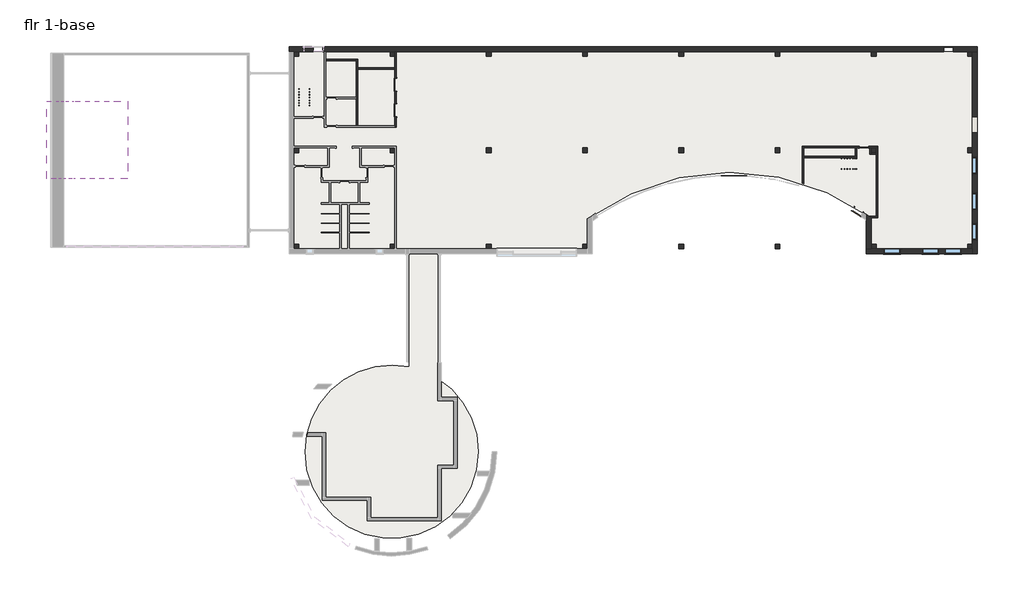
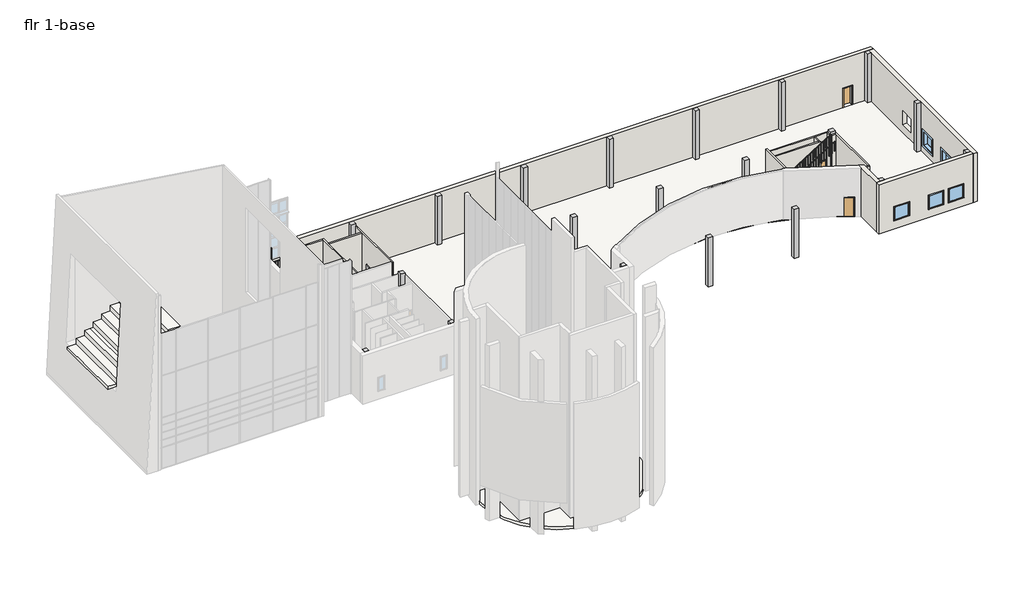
# One storey, part 5 of 5: 24 columns, 16 walls, 6 windows, 4 railings, 3 doors, 3 slabs, 2 proxies, 1 plate.
"""IFC4 building model written with IfcOpenShell, lengths in millimetres."""

from ifc_helpers import new_model, si_unit, point, frame, frame_2d, origin, origin_with_axes, place, context, project, spatial, polyline, circle_curve, trimmed, segment, composite_curve, outline, extrude, faceted_brep, transform, mapped, element, save
from ifc_brep_helpers import plane_surface, cylinder_surface, revolved_surface, advanced_brep
from components import proxy_ae548678, column_b6e10527, door_506e7aec, door_9814c99b, door_c8b20f4e, glazed_panel_glazed_panel_a34ef34b, stair_railing_1_6e4a725b, stair_railing_1_c91c3353, stair_railing_1_933ab80a, stair_railing_1_a5e15ff2, floors_1_floors_1_983044af, fixed_5_x5_e2f24dca

model = new_model("IFC4")

# Units and contexts
model_context = context("Model", 3, world=origin())
ifc_project = project(units=[si_unit("LENGTHUNIT", "METRE", prefix="MILLI")], contexts=[model_context])

# Site, building, storey
site = spatial("IfcSite", under=ifc_project)
building = spatial("IfcBuilding", under=site)
storey = spatial("IfcBuildingStorey", under=building, Name="flr 1-base", Elevation=0.0)

# Proxies
placement = place(None, origin())
proxy_shape = proxy_ae548678(model_context)
element("IfcBuildingElementProxy", 1, Name="Elevator-Center : 72\" x 114\" Hospital min.", ObjectType="Elevator-Center : 72\" x 114\" Hospital min.", at=placement, inside=storey, context=model_context, shape_type="MappedRepresentation", body=[
    mapped(proxy_shape, transform((-105880.840902, 38348.4927472, 0.0), x_axis=(0.0, 1.0, 0.0), y_axis=(-1.0, 0.0, 0.0), z_axis=(0.0, 0.0, 1.0))),
])
element("IfcBuildingElementProxy", 2, Name="Elevator-Center : 72\" x 114\" Hospital min.", ObjectType="Elevator-Center : 72\" x 114\" Hospital min.", at=placement, inside=storey, context=model_context, shape_type="MappedRepresentation", body=[
    mapped(proxy_shape, transform((-105880.840902, 40786.8927472, 0.0), x_axis=(0.0, 1.0, 0.0), y_axis=(-1.0, 0.0, 0.0), z_axis=(0.0, 0.0, 1.0))),
])

# Columns
element("IfcColumn", 3, ObjectType="Rectangular Column : 18\" x 18\"", at=placement, inside=storey, context=model_context, shape_type="SweptSolid", body=[
    extrude(outline(polyline([(-105950.690902, 25543.0071029), (-105950.690902, 25085.8071029), (-106407.890902, 25085.8071029), (-106407.890902, 25543.0071029), (-105950.690902, 25543.0071029)])), origin_with_axes(), (0.0, 0.0, 1.0), 5486.4),
])
element("IfcColumn", 4, ObjectType="Rectangular Column : 18\" x 18\"", at=placement, inside=storey, context=model_context, shape_type="SweptSolid", body=[
    extrude(outline(polyline([(-115094.690902, 34687.0071029), (-115094.690902, 34229.8071029), (-115551.890902, 34229.8071029), (-115551.890902, 34687.0071029), (-115094.690902, 34687.0071029)])), origin_with_axes(), (0.0, 0.0, 1.0), 5486.4),
])
element("IfcColumn", 5, ObjectType="Rectangular Column : 18\" x 18\"", at=placement, inside=storey, context=model_context, shape_type="SweptSolid", body=[
    extrude(outline(polyline([(-105950.690902, 34687.0071029), (-105950.690902, 34229.8071029), (-106407.890902, 34229.8071029), (-106407.890902, 34687.0071029), (-105950.690902, 34687.0071029)])), origin_with_axes(), (0.0, 0.0, 1.0), 5486.4),
])
element("IfcColumn", 6, ObjectType="Rectangular Column : 18\" x 18\"", at=placement, inside=storey, context=model_context, shape_type="SweptSolid", body=[
    extrude(outline(polyline([(-60230.690902, 34687.0071029), (-60230.690902, 34229.8071029), (-60687.890902, 34229.8071029), (-60687.890902, 34687.0071029), (-60230.690902, 34687.0071029)])), origin_with_axes(), (0.0, 0.0, 1.0), 5486.4),
])
element("IfcColumn", 7, ObjectType="Rectangular Column : 18\" x 18\"", at=placement, inside=storey, context=model_context, shape_type="SweptSolid", body=[
    extrude(outline(polyline([(-105950.690902, 43831.0071029), (-105950.690902, 43373.8071029), (-106407.890902, 43373.8071029), (-106407.890902, 43831.0071029), (-105950.690902, 43831.0071029)])), origin_with_axes(), (0.0, 0.0, 1.0), 5486.4),
])
column_shape = column_b6e10527(model_context)
element("IfcColumn", 8, ObjectType="Rectangular Column : 18\" x 18\"", at=placement, inside=storey, context=model_context, shape_type="MappedRepresentation", body=[
    mapped(column_shape, transform((-115323.290902, 25314.4071029, 0.0), x_axis=(1.0, 0.0, 0.0), y_axis=(0.0, 1.0, 0.0), z_axis=(0.0, 0.0, 1.0))),
])
element("IfcColumn", 9, ObjectType="Rectangular Column : 18\" x 18\"", at=placement, inside=storey, context=model_context, shape_type="MappedRepresentation", body=[
    mapped(column_shape, transform((-97035.290902, 25314.4071029, 0.0), x_axis=(1.0, 0.0, 0.0), y_axis=(0.0, 1.0, 0.0), z_axis=(0.0, 0.0, 1.0))),
])
element("IfcColumn", 10, ObjectType="Rectangular Column : 18\" x 18\"", at=placement, inside=storey, context=model_context, shape_type="MappedRepresentation", body=[
    mapped(column_shape, transform((-87891.290902, 25314.4071029, 0.0), x_axis=(1.0, 0.0, 0.0), y_axis=(0.0, 1.0, 0.0), z_axis=(0.0, 0.0, 1.0))),
])
element("IfcColumn", 11, ObjectType="Rectangular Column : 18\" x 18\"", at=placement, inside=storey, context=model_context, shape_type="MappedRepresentation", body=[
    mapped(column_shape, transform((-78747.290902, 25314.4071029, 0.0), x_axis=(1.0, 0.0, 0.0), y_axis=(0.0, 1.0, 0.0), z_axis=(0.0, 0.0, 1.0))),
])
element("IfcColumn", 12, ObjectType="Rectangular Column : 18\" x 18\"", at=placement, inside=storey, context=model_context, shape_type="MappedRepresentation", body=[
    mapped(column_shape, transform((-69603.290902, 25314.4071029, 0.0), x_axis=(1.0, 0.0, 0.0), y_axis=(0.0, 1.0, 0.0), z_axis=(0.0, 0.0, 1.0))),
])
element("IfcColumn", 13, ObjectType="Rectangular Column : 18\" x 18\"", at=placement, inside=storey, context=model_context, shape_type="MappedRepresentation", body=[
    mapped(column_shape, transform((-60459.290902, 25314.4071029, 0.0), x_axis=(1.0, 0.0, 0.0), y_axis=(0.0, 1.0, 0.0), z_axis=(0.0, 0.0, 1.0))),
])
element("IfcColumn", 14, ObjectType="Rectangular Column : 18\" x 18\"", at=placement, inside=storey, context=model_context, shape_type="MappedRepresentation", body=[
    mapped(column_shape, transform((-51315.290902, 25314.4071029, 0.0), x_axis=(1.0, 0.0, 0.0), y_axis=(0.0, 1.0, 0.0), z_axis=(0.0, 0.0, 1.0))),
])
element("IfcColumn", 15, ObjectType="Rectangular Column : 18\" x 18\"", at=placement, inside=storey, context=model_context, shape_type="MappedRepresentation", body=[
    mapped(column_shape, transform((-97035.290902, 34458.4071029, 0.0), x_axis=(1.0, 0.0, 0.0), y_axis=(0.0, 1.0, 0.0), z_axis=(0.0, 0.0, 1.0))),
])
element("IfcColumn", 16, ObjectType="Rectangular Column : 18\" x 18\"", at=placement, inside=storey, context=model_context, shape_type="MappedRepresentation", body=[
    mapped(column_shape, transform((-87891.290902, 34458.4071029, 0.0), x_axis=(1.0, 0.0, 0.0), y_axis=(0.0, 1.0, 0.0), z_axis=(0.0, 0.0, 1.0))),
])
element("IfcColumn", 17, ObjectType="Rectangular Column : 18\" x 18\"", at=placement, inside=storey, context=model_context, shape_type="MappedRepresentation", body=[
    mapped(column_shape, transform((-78747.290902, 34458.4071029, 0.0), x_axis=(1.0, 0.0, 0.0), y_axis=(0.0, 1.0, 0.0), z_axis=(0.0, 0.0, 1.0))),
])
element("IfcColumn", 18, ObjectType="Rectangular Column : 18\" x 18\"", at=placement, inside=storey, context=model_context, shape_type="MappedRepresentation", body=[
    mapped(column_shape, transform((-69603.290902, 34458.4071029, 0.0), x_axis=(1.0, 0.0, 0.0), y_axis=(0.0, 1.0, 0.0), z_axis=(0.0, 0.0, 1.0))),
])
element("IfcColumn", 19, ObjectType="Rectangular Column : 18\" x 18\"", at=placement, inside=storey, context=model_context, shape_type="MappedRepresentation", body=[
    mapped(column_shape, transform((-51315.290902, 34458.4071029, 0.0), x_axis=(1.0, 0.0, 0.0), y_axis=(0.0, 1.0, 0.0), z_axis=(0.0, 0.0, 1.0))),
])
element("IfcColumn", 20, ObjectType="Rectangular Column : 18\" x 18\"", at=placement, inside=storey, context=model_context, shape_type="MappedRepresentation", body=[
    mapped(column_shape, transform((-115323.290902, 43602.4071029, 0.0), x_axis=(1.0, 0.0, 0.0), y_axis=(0.0, 1.0, 0.0), z_axis=(0.0, 0.0, 1.0))),
])
element("IfcColumn", 21, ObjectType="Rectangular Column : 18\" x 18\"", at=placement, inside=storey, context=model_context, shape_type="MappedRepresentation", body=[
    mapped(column_shape, transform((-97035.290902, 43602.4071029, 0.0), x_axis=(1.0, 0.0, 0.0), y_axis=(0.0, 1.0, 0.0), z_axis=(0.0, 0.0, 1.0))),
])
element("IfcColumn", 22, ObjectType="Rectangular Column : 18\" x 18\"", at=placement, inside=storey, context=model_context, shape_type="MappedRepresentation", body=[
    mapped(column_shape, transform((-87891.290902, 43602.4071029, 0.0), x_axis=(1.0, 0.0, 0.0), y_axis=(0.0, 1.0, 0.0), z_axis=(0.0, 0.0, 1.0))),
])
element("IfcColumn", 23, ObjectType="Rectangular Column : 18\" x 18\"", at=placement, inside=storey, context=model_context, shape_type="MappedRepresentation", body=[
    mapped(column_shape, transform((-78747.290902, 43602.4071029, 0.0), x_axis=(1.0, 0.0, 0.0), y_axis=(0.0, 1.0, 0.0), z_axis=(0.0, 0.0, 1.0))),
])
element("IfcColumn", 24, ObjectType="Rectangular Column : 18\" x 18\"", at=placement, inside=storey, context=model_context, shape_type="MappedRepresentation", body=[
    mapped(column_shape, transform((-69603.290902, 43602.4071029, 0.0), x_axis=(1.0, 0.0, 0.0), y_axis=(0.0, 1.0, 0.0), z_axis=(0.0, 0.0, 1.0))),
])
element("IfcColumn", 25, ObjectType="Rectangular Column : 18\" x 18\"", at=placement, inside=storey, context=model_context, shape_type="MappedRepresentation", body=[
    mapped(column_shape, transform((-60459.290902, 43602.4071029, 0.0), x_axis=(1.0, 0.0, 0.0), y_axis=(0.0, 1.0, 0.0), z_axis=(0.0, 0.0, 1.0))),
])
element("IfcColumn", 26, ObjectType="Rectangular Column : 18\" x 18\"", at=placement, inside=storey, context=model_context, shape_type="MappedRepresentation", body=[
    mapped(column_shape, transform((-51315.290902, 43602.4071029, 0.0), x_axis=(1.0, 0.0, 0.0), y_axis=(0.0, 1.0, 0.0), z_axis=(0.0, 0.0, 1.0))),
])

# Doors
door_shape = door_506e7aec(model_context)
element("IfcDoor", 27, ObjectType="Sgl Flush : 36\" x 84\"", at=placement, inside=storey, context=model_context, shape_type="MappedRepresentation", body=[
    mapped(door_shape, transform((-53347.290902, 44059.6071029, 0.0), x_axis=(1.0, 0.0, 0.0), y_axis=(0.0, 1.0, 0.0), z_axis=(0.0, 0.0, 1.0))),
])
door_2_shape = door_9814c99b(model_context)
element("IfcDoor", 28, ObjectType="Sgl Flush : 36\" x 84\"", at=placement, inside=storey, context=model_context, shape_type="MappedRepresentation", body=[
    mapped(door_2_shape, transform((-61392.740902, 34756.8571029, 0.0), x_axis=(1.0, 0.0, 0.0), y_axis=(0.0, 1.0, 0.0), z_axis=(0.0, 0.0, 1.0))),
])
door_3_shape = door_c8b20f4e(model_context)
element("IfcDoor", 29, ObjectType="Sgl Flush : 36\" x 84\"", at=placement, inside=storey, context=model_context, shape_type="MappedRepresentation", body=[
    mapped(door_3_shape, transform((-61984.3822713, 28630.0444779, 0.0), x_axis=(0.8466581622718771, -0.5321371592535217, 0.0), y_axis=(0.5321371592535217, 0.8466581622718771, 0.0), z_axis=(0.0, 0.0, 1.0))),
])

# Plate
glazed_panel_glazed_panel_shape = glazed_panel_glazed_panel_a34ef34b(model_context)
element("IfcPlate", 30, ObjectType="Glazed Panel : Glazed Panel", at=placement, inside=storey, context=model_context, shape_type="MappedRepresentation", body=[
    mapped(glazed_panel_glazed_panel_shape, transform((-73741.8913195, 32089.0416678, 0.0), x_axis=(-0.9998746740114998, 0.015831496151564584, 0.0), y_axis=(-0.015831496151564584, -0.9998746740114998, 0.0), z_axis=(0.0, 0.0, 1.0))),
])

# Railings
stair_railing_1_shape = stair_railing_1_6e4a725b(model_context)
element("IfcRailing", 31, ObjectType="Stair Railing 1", at=placement, inside=storey, context=model_context, shape_type="MappedRepresentation", body=[
    mapped(stair_railing_1_shape, transform((0.0, 0.0, 0.0), x_axis=(1.0, 0.0, 0.0), y_axis=(0.0, 1.0, 0.0), z_axis=(0.0, 0.0, 1.0))),
])
stair_railing_1_2_shape = stair_railing_1_c91c3353(model_context)
element("IfcRailing", 32, ObjectType="Stair Railing 1", at=placement, inside=storey, context=model_context, shape_type="MappedRepresentation", body=[
    mapped(stair_railing_1_2_shape, transform((0.0, 0.0, 0.0), x_axis=(1.0, 0.0, 0.0), y_axis=(0.0, 1.0, 0.0), z_axis=(0.0, 0.0, 1.0))),
])
stair_railing_1_3_shape = stair_railing_1_933ab80a(model_context)
element("IfcRailing", 33, ObjectType="Stair Railing 1", at=placement, inside=storey, context=model_context, shape_type="MappedRepresentation", body=[
    mapped(stair_railing_1_3_shape, transform((0.0, 0.0, 0.0), x_axis=(1.0, 0.0, 0.0), y_axis=(0.0, 1.0, 0.0), z_axis=(0.0, 0.0, 1.0))),
])
stair_railing_1_4_shape = stair_railing_1_a5e15ff2(model_context)
element("IfcRailing", 34, ObjectType="Stair Railing 1", at=placement, inside=storey, context=model_context, shape_type="MappedRepresentation", body=[
    mapped(stair_railing_1_4_shape, transform((0.0, 0.0, 0.0), x_axis=(1.0, 0.0, 0.0), y_axis=(0.0, 1.0, 0.0), z_axis=(0.0, 0.0, 1.0))),
])

# Slabs
floors_1_floors_1_shape = floors_1_floors_1_983044af(model_context)
element("IfcSlab", 35, ObjectType="Floors 1 : Floors 1", at=placement, inside=storey, context=model_context, shape_type="MappedRepresentation", body=[
    mapped(floors_1_floors_1_shape, transform((0.0, 0.0, 0.0), x_axis=(1.0, 0.0, 0.0), y_axis=(0.0, 1.0, 0.0), z_axis=(0.0, 0.0, 1.0))),
])
element("IfcSlab", 36, ObjectType="Generic - 12\"", at=placement, inside=storey, context=model_context, shape_type="SweptSolid", body=[
    extrude(outline(composite_curve([segment(trimmed(circle_curve(frame_2d((-106255.490902, 5807.2071029)), 8229.6), [point((-101864.8074925, 12767.6823279))], [point((-98025.890902, 5807.2071029))], False, "CARTESIAN"), True, "CONTINUOUS"), segment(trimmed(circle_curve(frame_2d((-106255.490902, 5807.2071029)), 8229.6), [point((-98025.890902, 5807.2071029))], [point((-114485.090902, 5807.2071029))], False, "CARTESIAN"), True, "CONTINUOUS"), segment(trimmed(circle_curve(frame_2d((-106255.490902, 5807.2071029)), 8229.6), [point((-114485.090902, 5807.2071029))], [point((-104601.6574925, 13868.9160541))], False, "CARTESIAN"), True, "CONTINUOUS"), segment(polyline([(-104601.6574925, 13868.9160541), (-104601.6574925, 24630.1946029), (-101864.8074925, 24630.1946029), (-101864.8074925, 12767.6823279)]), True, "CONTINUOUS")], self_intersect=False)), frame((0.0, 0.0, -304.8), z_axis=(0.0, 0.0, 1.0), x_axis=(1.0, 0.0, 0.0)), (0.0, 0.0, 1.0), 304.8),
])
element("IfcSlab", 37, ObjectType="Generic - 12\"", at=placement, inside=storey, context=model_context, shape_type="SweptSolid", body=[
    extrude(outline(composite_curve([segment(polyline([(-115553.8578209, 43832.5946029), (-51085.103402, 43832.5946029), (-51085.103402, 25084.2196029), (-60689.478402, 25084.2196029), (-60689.478402, 28038.6155885)]), True, "CONTINUOUS"), segment(trimmed(circle_curve(frame_2d((-74101.9231483, 9350.4006647)), 23003.1095965), [point((-60689.478402, 28038.6155885))], [point((-87661.103402, 27932.4264412))], True, "CARTESIAN"), True, "CONTINUOUS"), segment(polyline([(-87661.103402, 27932.4264412), (-87661.103402, 25084.2196029), (-115553.8578209, 25084.2196029), (-115553.8578209, 43832.5946029)]), True, "CONTINUOUS")], self_intersect=False)), frame((0.0, 0.0, -304.8), z_axis=(0.0, 0.0, 1.0), x_axis=(1.0, 0.0, 0.0)), (0.0, 0.0, 1.0), 304.8),
])

# Walls
element("IfcWall", 38, ObjectType="Interior - 5 1/2\" Partition (1-hr)", at=placement, inside=storey, context=model_context, shape_type="Brep", body=[
    faceted_brep([(-105950.690902, 40071.8071029, 2159.0), (-105950.690902, 40071.8071029, 0.0), (-105950.690902, 38865.3071029, 0.0), (-105950.690902, 38865.3071029, 2159.0), (-105950.690902, 37633.4071029, 2159.0), (-105950.690902, 37633.4071029, 0.0), (-105950.690902, 36795.2071029, 0.0), (-105950.690902, 36655.5071029, 0.0), (-105950.690902, 36655.5071029, 5181.6), (-105950.690902, 36795.2071029, 5181.6), (-105950.690902, 42141.9071029, 5181.6), (-105950.690902, 42281.6071029, 5181.6), (-105950.690902, 43832.5946029, 5181.6), (-105950.690902, 43832.5946029, 0.0), (-105950.690902, 42281.6071029, 0.0), (-105950.690902, 42141.9071029, 0.0), (-105950.690902, 41303.7071029, 0.0), (-105950.690902, 41303.7071029, 2159.0), (-105810.990902, 38865.3071029, 0.0), (-105810.990902, 40071.8071029, 0.0), (-105810.990902, 40071.8071029, 2159.0), (-105810.990902, 41303.7071029, 2159.0), (-105810.990902, 41303.7071029, 0.0), (-105810.990902, 43832.5946029, 0.0), (-105810.990902, 43832.5946029, 5181.6), (-105810.990902, 36655.5071029, 5181.6), (-105810.990902, 36655.5071029, 0.0), (-105810.990902, 37633.4071029, 0.0), (-105810.990902, 37633.4071029, 2159.0), (-105810.990902, 38865.3071029, 2159.0)], [[[0, 1, 2, 3, 4, 5, 6, 7, 8, 9, 10, 11, 12, 13, 14, 15, 16, 17]], [[18, 19, 20, 21, 22, 23, 24, 25, 26, 27, 28, 29]], [[7, 6, 5, 27, 26]], [[2, 1, 19, 18]], [[16, 15, 14, 13, 23, 22]], [[8, 7, 26, 25]], [[13, 12, 24, 23]], [[12, 11, 10, 9, 8, 25, 24]], [[28, 27, 5, 4]], [[29, 28, 4, 3]], [[18, 29, 3, 2]], [[20, 19, 1, 0]], [[21, 20, 0, 17]], [[22, 21, 17, 16]]]),
])
element("IfcWall", 39, ObjectType="Interior - 5 1/2\" Partition (1-hr)", at=placement, inside=storey, context=model_context, shape_type="Brep", body=[
    faceted_brep([(-109493.990902, 36795.2071029, 0.0), (-109493.990902, 42141.9071029, 0.0), (-109493.990902, 42281.6071029, 0.0), (-109493.990902, 43119.8071029, 0.0), (-109493.990902, 43119.8071029, 5181.6), (-109493.990902, 42281.6071029, 5181.6), (-109493.990902, 42141.9071029, 5181.6), (-109493.990902, 36795.2071029, 5181.6), (-109633.690902, 36795.2071029, 0.0), (-109633.690902, 36795.2071029, 5181.6), (-109633.690902, 39347.9071029, 5181.6), (-109633.690902, 39487.6071029, 5181.6), (-109633.690902, 42980.1071029, 5181.6), (-109633.690902, 43119.8071029, 5181.6), (-109633.690902, 43119.8071029, 0.0), (-109633.690902, 42980.1071029, 0.0), (-109633.690902, 39487.6071029, 0.0), (-109633.690902, 39347.9071029, 0.0)], [[[0, 1, 2, 3, 4, 5, 6, 7]], [[8, 9, 10, 11, 12, 13, 14, 15, 16, 17]], [[3, 2, 1, 0, 8, 17, 16, 15, 14]], [[4, 3, 14, 13]], [[0, 7, 9, 8]], [[7, 6, 5, 4, 13, 12, 11, 10, 9]]]),
])
element("IfcWall", 40, ObjectType="Interior - 5 1/2\" Partition (1-hr)", at=placement, inside=storey, context=model_context, shape_type="SweptSolid", body=[
    extrude(outline(polyline([(-112510.240902, 43119.8071029), (-109633.690902, 43119.8071029), (-109633.690902, 42980.1071029), (-112510.240902, 42980.1071029), (-112510.240902, 43119.8071029)])), origin_with_axes(), (0.0, 0.0, 1.0), 5181.6),
])
element("IfcWall", 41, ObjectType="Interior - 5 1/2\" Partition (1-hr)", at=placement, inside=storey, context=model_context, shape_type="SweptSolid", body=[
    extrude(outline(polyline([(-105950.690902, 42141.9071029), (-109493.990902, 42141.9071029), (-109493.990902, 42281.6071029), (-105950.690902, 42281.6071029), (-105950.690902, 42141.9071029)])), origin_with_axes(), (0.0, 0.0, 1.0), 5181.6),
])
element("IfcWall", 42, ObjectType="Interior - 5 1/2\" Partition (1-hr)", at=placement, inside=storey, context=model_context, shape_type="AdvancedBrep", body=[
    advanced_brep(
    [(-67105.7856484, 31263.8009301, 0.0), (-67105.7856484, 33728.1571029, 0.0), (-67105.7856484, 33867.8571029, 0.0), (-67105.7856484, 34687.0071029, 0.0), (-67105.7856484, 34826.7071029, 0.0), (-67105.7856484, 34826.7071029, 5181.6), (-67105.7856484, 34826.7071029, 5486.4), (-67105.7856484, 31263.8009301, 5486.4), (-67245.4856484, 31307.9122705, 0.0), (-67245.4856484, 31307.9122705, 5486.4), (-67245.4856484, 34826.7071029, 5486.4), (-67245.4856484, 34826.7071029, 0.0)],
    [
        (0, 1),
        (1, 2),
        (2, 3),
        (3, 4),
        (4, 5),
        (5, 6),
        (6, 7),
        (7, 0),
        (8, 9),
        (9, 10),
        (10, 11),
        (11, 8),
        (0, 8, circle_curve(frame((-74101.9231483, 9350.4006647, 0.0), z_axis=(0.0, 0.0, 1.0), x_axis=(1.0, 0.0, 0.0)), 23003.1095965)),
        (11, 4),
        (6, 10),
        (9, 7, circle_curve(frame((-74101.9231483, 9350.4006647, 5486.4), z_axis=(0.0, 0.0, -1.0), x_axis=(1.0, 0.0, 0.0)), 23003.1095965)),
    ],
    [
        plane_surface(frame((-67105.7856484, 31391.9822792, 0.0), z_axis=(1.0, 0.0, 0.0), x_axis=(0.0, 1.0, 0.0))),
        plane_surface(frame((-67245.4856484, 31391.9822792, 0.0), z_axis=(-1.0, 0.0, 0.0), x_axis=(0.0, -1.0, 0.0))),
        plane_surface(frame((-67105.7856484, 31047.8000577, 0.0), z_axis=(0.0, 0.0, -1.0), x_axis=(-1.0, 0.0, 0.0))),
        plane_surface(frame((-67105.7856484, 34756.8571029, 5486.4), z_axis=(0.0, 0.0, 1.0), x_axis=(-1.0, 0.0, 0.0))),
        plane_surface(frame((-67175.6356484, 34826.7071029, 0.0), z_axis=(0.0, 1.0, 0.0), x_axis=(-1.0, 0.0, 0.0))),
        revolved_surface(polyline([(-51098.813551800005, 9350.4006647, 5486.4), (-51098.813551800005, 9350.4006647, 0.0)]), (-74101.9231483, 9350.4006647, 0.0), (0.0, 0.0, 1.0)),
    ],
    [
        (0, [[1, 2, 3, 4, 5, 6, 7, 8]]),
        (1, [[9, 10, 11, 12]]),
        (2, [[-4, -3, -2, -1, 13, -12, 14]]),
        (3, [[-7, 15, -10, 16]]),
        (4, [[-6, -5, -14, -11, -15]]),
        (5, [[-8, -16, -9, -13]]),
    ],
),
])
element("IfcWall", 43, ObjectType="Interior - 5 1/2\" Partition (1-hr)", at=placement, inside=storey, context=model_context, shape_type="Brep", body=[
    faceted_brep([(-60935.540902, 34687.0071029, 2133.6), (-60935.540902, 34687.0071029, 0.0), (-60827.590902, 34687.0071029, 0.0), (-60687.890902, 34687.0071029, 0.0), (-60230.690902, 34687.0071029, 0.0), (-60090.990902, 34687.0071029, 0.0), (-60090.990902, 34687.0071029, 5181.6), (-60230.690902, 34687.0071029, 5181.6), (-60687.890902, 34687.0071029, 5181.6), (-60827.590902, 34687.0071029, 5181.6), (-62065.840902, 34687.0071029, 5181.6), (-62205.540902, 34687.0071029, 5181.6), (-67105.7856484, 34687.0071029, 5181.6), (-67105.7856484, 34687.0071029, 0.0), (-62205.540902, 34687.0071029, 0.0), (-62065.840902, 34687.0071029, 0.0), (-61849.940902, 34687.0071029, 0.0), (-61849.940902, 34687.0071029, 2133.6), (-60090.990902, 34826.7071029, 0.0), (-60935.540902, 34826.7071029, 0.0), (-60935.540902, 34826.7071029, 2133.6), (-61849.940902, 34826.7071029, 2133.6), (-61849.940902, 34826.7071029, 0.0), (-67105.7856484, 34826.7071029, 0.0), (-67105.7856484, 34826.7071029, 5181.6), (-60090.990902, 34826.7071029, 5181.6)], [[[0, 1, 2, 3, 4, 5, 6, 7, 8, 9, 10, 11, 12, 13, 14, 15, 16, 17]], [[18, 19, 20, 21, 22, 23, 24, 25]], [[5, 4, 3, 2, 1, 19, 18]], [[16, 15, 14, 13, 23, 22]], [[6, 5, 18, 25]], [[13, 12, 24, 23]], [[12, 11, 10, 9, 8, 7, 6, 25, 24]], [[20, 19, 1, 0]], [[21, 20, 0, 17]], [[22, 21, 17, 16]]]),
])
element("IfcWall", 44, ObjectType="Interior - 5 1/2\" Partition (1-hr)", at=placement, inside=storey, context=model_context, shape_type="Brep", body=[
    faceted_brep([(-60230.690902, 34687.0071029, 0.0), (-60230.690902, 34229.8071029, 0.0), (-60230.690902, 34090.1071029, 0.0), (-60230.690902, 28203.6571029, 0.0), (-60230.690902, 28203.6571029, 5181.6), (-60230.690902, 34090.1071029, 5181.6), (-60230.690902, 34229.8071029, 5181.6), (-60230.690902, 34687.0071029, 5181.6), (-60090.990902, 34687.0071029, 0.0), (-60090.990902, 34687.0071029, 5181.6), (-60090.990902, 28203.6571029, 5181.6), (-60090.990902, 28203.6571029, 0.0)], [[[0, 1, 2, 3, 4, 5, 6, 7]], [[8, 9, 10, 11]], [[3, 2, 1, 0, 8, 11]], [[0, 7, 9, 8]], [[4, 3, 11, 10]], [[7, 6, 5, 4, 10, 9]]]),
])
element("IfcWall", 45, ObjectType="Interior - 5 1/2\" Partition (1-hr)", at=placement, inside=storey, context=model_context, shape_type="AdvancedBrep", body=[
    advanced_brep(
    [(-60724.8585771, 28063.9571029, 0.0), (-60090.990902, 28063.9571029, 0.0), (-60090.990902, 28063.9571029, 5181.6), (-60724.8585771, 28063.9571029, 5181.6), (-60922.478062, 28203.6571029, 0.0), (-60922.478062, 28203.6571029, 5181.6), (-60230.690902, 28203.6571029, 5181.6), (-60090.990902, 28203.6571029, 5181.6), (-60090.990902, 28203.6571029, 0.0), (-60230.690902, 28203.6571029, 0.0)],
    [
        (0, 1),
        (1, 2),
        (2, 3),
        (3, 0),
        (4, 5),
        (5, 6),
        (6, 7),
        (7, 8),
        (8, 9),
        (9, 4),
        (0, 4, circle_curve(frame((-74101.9231483, 9350.4006647, 0.0), z_axis=(0.0, 0.0, 1.0), x_axis=(1.0, 0.0, 0.0)), 23003.1095965)),
        (8, 1),
        (7, 2),
        (3, 5, circle_curve(frame((-74101.9231483, 9350.4006647, 5181.6), z_axis=(0.0, 0.0, 1.0), x_axis=(1.0, 0.0, 0.0)), 23003.1095965)),
    ],
    [
        plane_surface(frame((-63294.3125199, 28063.9571029, 0.0), z_axis=(0.0, -1.0, 0.0), x_axis=(1.0, 0.0, 0.0))),
        plane_surface(frame((-63294.3125199, 28203.6571029, 0.0), z_axis=(0.0, 1.0, 0.0), x_axis=(-1.0, 0.0, 0.0))),
        plane_surface(frame((-61220.3765981, 28063.9571029, 0.0), z_axis=(0.0, 0.0, -1.0), x_axis=(0.0, 1.0, 0.0))),
        plane_surface(frame((-60090.990902, 34756.8571029, 0.0), z_axis=(1.0, 0.0, 0.0), x_axis=(0.0, 1.0, 0.0))),
        revolved_surface(polyline([(-51098.813551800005, 9350.4006647, 5181.6), (-51098.813551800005, 9350.4006647, 0.0)]), (-74101.9231483, 9350.4006647, 0.0), (0.0, 0.0, 1.0)),
        plane_surface(frame((-51085.103402, 43832.5946029, 5181.6), z_axis=(0.0, 0.0, 1.0), x_axis=(0.0, -1.0, 0.0))),
    ],
    [
        (0, [[1, 2, 3, 4]]),
        (1, [[5, 6, 7, 8, 9, 10]]),
        (2, [[-1, 11, -10, -9, 12]]),
        (3, [[-2, -12, -8, 13]]),
        (4, [[-4, 14, -5, -11]]),
        (5, [[-3, -13, -7, -6, -14]]),
    ],
),
])
element("IfcWall", 46, ObjectType="Interior - 5 1/2\" Partition (1-hr)", at=placement, inside=storey, context=model_context, shape_type="Brep", body=[
    faceted_brep([(-60827.590902, 34687.0071029, 0.0), (-60827.590902, 34090.1071029, 0.0), (-60827.590902, 34090.1071029, 5181.6), (-60827.590902, 34687.0071029, 5181.6), (-60687.890902, 34687.0071029, 0.0), (-60687.890902, 34687.0071029, 5181.6), (-60687.890902, 34229.8071029, 5181.6), (-60687.890902, 34090.1071029, 5181.6), (-60687.890902, 34090.1071029, 0.0), (-60687.890902, 34229.8071029, 0.0)], [[[0, 1, 2, 3]], [[4, 5, 6, 7, 8, 9]], [[1, 0, 4, 9, 8]], [[2, 1, 8, 7]], [[0, 3, 5, 4]], [[3, 2, 7, 6, 5]]]),
])
element("IfcWall", 47, ObjectType="Interior - 5 1/2\" Partition (1-hr)", at=placement, inside=storey, context=model_context, shape_type="SweptSolid", body=[
    extrude(outline(polyline([(-60230.690902, 34090.1071029), (-60687.890902, 34090.1071029), (-60687.890902, 34229.8071029), (-60230.690902, 34229.8071029), (-60230.690902, 34090.1071029)])), origin_with_axes(), (0.0, 0.0, 1.0), 5181.6),
])
element("IfcWall", 48, ObjectType="Interior - 5 1/2\" Partition (1-hr)", at=placement, inside=storey, context=model_context, shape_type="Brep", body=[
    faceted_brep([(-67105.7856484, 33728.1571029, 0.0), (-62065.840902, 33728.1571029, 0.0), (-62065.840902, 33728.1571029, 5181.6), (-67105.7856484, 33728.1571029, 5181.6), (-67105.7856484, 33867.8571029, 0.0), (-67105.7856484, 33867.8571029, 5181.6), (-62205.540902, 33867.8571029, 5181.6), (-62065.840902, 33867.8571029, 5181.6), (-62065.840902, 33867.8571029, 0.0), (-62205.540902, 33867.8571029, 0.0)], [[[0, 1, 2, 3]], [[4, 5, 6, 7, 8, 9]], [[1, 0, 4, 9, 8]], [[2, 1, 8, 7]], [[0, 3, 5, 4]], [[3, 2, 7, 6, 5]]]),
])
element("IfcWall", 49, ObjectType="Interior - 5 1/2\" Partition (1-hr)", at=placement, inside=storey, context=model_context, shape_type="SweptSolid", body=[
    extrude(outline(polyline([(-62205.540902, 33867.8571029), (-62205.540902, 34687.0071029), (-62065.840902, 34687.0071029), (-62065.840902, 33867.8571029), (-62205.540902, 33867.8571029)])), origin_with_axes(), (0.0, 0.0, 1.0), 5181.6),
])
element("IfcWall", 50, ObjectType="a_Stone on CMU", at=placement, inside=storey, context=model_context, shape_type="Brep", body=[
    faceted_brep([(-50631.078402, 43832.5946029, 0.0), (-50631.078402, 43832.5946029, 5486.4), (-51085.103402, 43832.5946029, 5486.4), (-112757.890902, 43832.5946029, 5486.4), (-112757.890902, 43832.5946029, 3908.3648235), (-114586.690902, 43832.5946029, 3908.3648235), (-114586.690902, 43832.5946029, 5486.4), (-115553.8578209, 43832.5946029, 5486.4), (-116007.8828209, 43832.5946029, 5486.4), (-116007.8828209, 43832.5946029, 0.0), (-115553.8578209, 43832.5946029, 0.0), (-113723.090902, 43832.5946029, 0.0), (-113723.090902, 43832.5946029, 2133.6), (-112808.690902, 43832.5946029, 2133.6), (-112808.690902, 43832.5946029, 0.0), (-112649.940902, 43832.5946029, 0.0), (-112510.240902, 43832.5946029, 0.0), (-105950.690902, 43832.5946029, 0.0), (-105810.990902, 43832.5946029, 0.0), (-53804.490902, 43832.5946029, 0.0), (-53804.490902, 43832.5946029, 2133.6), (-52890.090902, 43832.5946029, 2133.6), (-52890.090902, 43832.5946029, 0.0), (-51085.103402, 43832.5946029, 0.0), (-50631.078402, 44286.6196029, 5486.4), (-50631.078402, 44286.6196029, 0.0), (-52890.090902, 44286.6196029, 0.0), (-52890.090902, 44286.6196029, 2133.6), (-53804.490902, 44286.6196029, 2133.6), (-53804.490902, 44286.6196029, 0.0), (-112808.690902, 44286.6196029, 0.0), (-112808.690902, 44286.6196029, 2133.6), (-113723.090902, 44286.6196029, 2133.6), (-113723.090902, 44286.6196029, 0.0), (-116007.8828209, 44286.6196029, 0.0), (-116007.8828209, 44286.6196029, 5486.4), (-114586.690902, 44286.6196029, 5486.4), (-114586.690902, 44286.6196029, 3908.3648235), (-112757.890902, 44286.6196029, 3908.3648235), (-112757.890902, 44286.6196029, 5486.4)], [[[0, 1, 2, 3, 4, 5, 6, 7, 8, 9, 10, 11, 12, 13, 14, 15, 16, 17, 18, 19, 20, 21, 22, 23]], [[24, 25, 26, 27, 28, 29, 30, 31, 32, 33, 34, 35, 36, 37, 38, 39]], [[25, 0, 23, 22, 26]], [[9, 34, 33, 11, 10]], [[14, 30, 29, 19, 18, 17, 16, 15]], [[1, 24, 39, 3, 2]], [[35, 8, 7, 6, 36]], [[1, 0, 25, 24]], [[9, 8, 35, 34]], [[31, 30, 14, 13]], [[32, 31, 13, 12]], [[33, 32, 12, 11]], [[27, 26, 22, 21]], [[28, 27, 21, 20]], [[29, 28, 20, 19]], [[38, 4, 3, 39]], [[4, 38, 37, 5]], [[5, 37, 36, 6]]]),
])
element("IfcWall", 51, ObjectType="a_Stone on CMU", at=placement, inside=storey, context=model_context, shape_type="Brep", body=[
    faceted_brep([(-51085.103402, 43832.5946029, 0.0), (-51085.103402, 25084.2196029, 0.0), (-51085.103402, 24630.1946029, 0.0), (-51085.103402, 24630.1946029, 5486.4), (-51085.103402, 25084.2196029, 5486.4), (-51085.103402, 43832.5946029, 5486.4), (-51085.103402, 36109.4071029, 2438.4), (-51085.103402, 36109.4071029, 914.4), (-51085.103402, 37633.4071029, 914.4), (-51085.103402, 37633.4071029, 2438.4), (-51085.103402, 25949.4071029, 2438.4), (-51085.103402, 25949.4071029, 914.4), (-51085.103402, 27473.4071029, 914.4), (-51085.103402, 27473.4071029, 2438.4), (-51085.103402, 28845.0071029, 2438.4), (-51085.103402, 28845.0071029, 914.4), (-51085.103402, 30369.0071029, 914.4), (-51085.103402, 30369.0071029, 2438.4), (-51085.103402, 32248.6071029, 2438.4), (-51085.103402, 32248.6071029, 914.4), (-51085.103402, 33772.6071029, 914.4), (-51085.103402, 33772.6071029, 2438.4), (-50631.078402, 43832.5946029, 0.0), (-50631.078402, 43832.5946029, 5486.4), (-50631.078402, 24630.1946029, 5486.4), (-50631.078402, 24630.1946029, 0.0), (-50631.078402, 36109.4071029, 2438.4), (-50631.078402, 37633.4071029, 2438.4), (-50631.078402, 37633.4071029, 914.4), (-50631.078402, 36109.4071029, 914.4), (-50631.078402, 25949.4071029, 2438.4), (-50631.078402, 27473.4071029, 2438.4), (-50631.078402, 27473.4071029, 914.4), (-50631.078402, 25949.4071029, 914.4), (-50631.078402, 28845.0071029, 2438.4), (-50631.078402, 30369.0071029, 2438.4), (-50631.078402, 30369.0071029, 914.4), (-50631.078402, 28845.0071029, 914.4), (-50631.078402, 32248.6071029, 2438.4), (-50631.078402, 33772.6071029, 2438.4), (-50631.078402, 33772.6071029, 914.4), (-50631.078402, 32248.6071029, 914.4)], [[[0, 1, 2, 3, 4, 5], [6, 7, 8, 9], [10, 11, 12, 13], [14, 15, 16, 17], [18, 19, 20, 21]], [[22, 23, 24, 25], [26, 27, 28, 29], [30, 31, 32, 33], [34, 35, 36, 37], [38, 39, 40, 41]], [[2, 1, 0, 22, 25]], [[5, 4, 3, 24, 23]], [[3, 2, 25, 24]], [[0, 5, 23, 22]], [[7, 6, 26, 29]], [[8, 7, 29, 28]], [[9, 8, 28, 27]], [[6, 9, 27, 26]], [[11, 10, 30, 33]], [[12, 11, 33, 32]], [[13, 12, 32, 31]], [[10, 13, 31, 30]], [[15, 14, 34, 37]], [[16, 15, 37, 36]], [[17, 16, 36, 35]], [[14, 17, 35, 34]], [[19, 18, 38, 41]], [[20, 19, 41, 40]], [[21, 20, 40, 39]], [[18, 21, 39, 38]]]),
])
element("IfcWall", 52, ObjectType="a_Stone on CMU", at=placement, inside=storey, context=model_context, shape_type="Brep", body=[
    faceted_brep([(-51085.103402, 25084.2196029, 0.0), (-60689.478402, 25084.2196029, 0.0), (-61143.503402, 25084.2196029, 0.0), (-61143.503402, 25084.2196029, 5486.4), (-60689.478402, 25084.2196029, 5486.4), (-51085.103402, 25084.2196029, 5486.4), (-59468.690902, 25084.2196029, 2438.4), (-59468.690902, 25084.2196029, 914.4), (-57944.690902, 25084.2196029, 914.4), (-57944.690902, 25084.2196029, 2438.4), (-55811.090902, 25084.2196029, 2438.4), (-55811.090902, 25084.2196029, 914.4), (-54287.090902, 25084.2196029, 914.4), (-54287.090902, 25084.2196029, 2438.4), (-53677.490902, 25084.2196029, 2438.4), (-53677.490902, 25084.2196029, 914.4), (-52153.490902, 25084.2196029, 914.4), (-52153.490902, 25084.2196029, 2438.4), (-51085.103402, 24630.1946029, 0.0), (-51085.103402, 24630.1946029, 5486.4), (-61143.503402, 24630.1946029, 5486.4), (-61143.503402, 24630.1946029, 0.0), (-59468.690902, 24630.1946029, 2438.4), (-57944.690902, 24630.1946029, 2438.4), (-57944.690902, 24630.1946029, 914.4), (-59468.690902, 24630.1946029, 914.4), (-55811.090902, 24630.1946029, 2438.4), (-54287.090902, 24630.1946029, 2438.4), (-54287.090902, 24630.1946029, 914.4), (-55811.090902, 24630.1946029, 914.4), (-53677.490902, 24630.1946029, 2438.4), (-52153.490902, 24630.1946029, 2438.4), (-52153.490902, 24630.1946029, 914.4), (-53677.490902, 24630.1946029, 914.4)], [[[0, 1, 2, 3, 4, 5], [6, 7, 8, 9], [10, 11, 12, 13], [14, 15, 16, 17]], [[18, 19, 20, 21], [22, 23, 24, 25], [26, 27, 28, 29], [30, 31, 32, 33]], [[2, 1, 0, 18, 21]], [[5, 4, 3, 20, 19]], [[3, 2, 21, 20]], [[0, 5, 19, 18]], [[7, 6, 22, 25]], [[8, 7, 25, 24]], [[9, 8, 24, 23]], [[6, 9, 23, 22]], [[11, 10, 26, 29]], [[12, 11, 29, 28]], [[13, 12, 28, 27]], [[10, 13, 27, 26]], [[15, 14, 30, 33]], [[16, 15, 33, 32]], [[17, 16, 32, 31]], [[14, 17, 31, 30]]]),
])
element("IfcWall", 53, ObjectType="a_Stone on CMU", at=placement, inside=storey, context=model_context, shape_type="AdvancedBrep", body=[
    advanced_brep(
    [(-60689.478402, 25084.2196029, 0.0), (-60689.478402, 28038.6155885, 0.0), (-60689.478402, 28038.6155885, 5486.4), (-60689.478402, 25084.2196029, 5486.4), (-61143.503402, 25084.2196029, 0.0), (-61143.503402, 25084.2196029, 5486.4), (-61143.503402, 27804.1421233, 5486.4), (-61143.503402, 28356.2526263, 5486.4), (-61143.503402, 28356.2526263, 0.0), (-61143.503402, 27804.1421233, 0.0)],
    [
        (0, 1),
        (1, 2),
        (2, 3),
        (3, 0),
        (4, 5),
        (5, 6),
        (6, 7),
        (7, 8),
        (8, 9),
        (9, 4),
        (0, 4),
        (8, 1, circle_curve(frame((-74101.9231483, 9350.4006647, 0.0), z_axis=(0.0, 0.0, -1.0), x_axis=(1.0, 0.0, 0.0)), 23003.1095965)),
        (2, 7, circle_curve(frame((-74101.9231483, 9350.4006647, 5486.4), z_axis=(0.0, 0.0, 1.0), x_axis=(1.0, 0.0, 0.0)), 23003.1095965)),
        (5, 3),
    ],
    [
        plane_surface(frame((-60689.478402, 25314.4071029, 0.0), z_axis=(1.0, 0.0, 0.0), x_axis=(0.0, 1.0, 0.0))),
        plane_surface(frame((-61143.503402, 25314.4071029, 0.0), z_axis=(-1.0, 0.0, 0.0), x_axis=(0.0, -1.0, 0.0))),
        plane_surface(frame((-60689.478402, 24857.2071029, 0.0), z_axis=(0.0, 0.0, -1.0), x_axis=(-1.0, 0.0, 0.0))),
        plane_surface(frame((-60689.478402, 27921.7489041, 5486.4), z_axis=(0.0, 0.0, 1.0), x_axis=(-1.0, 0.0, 0.0))),
        cylinder_surface(frame((-74101.9231483, 9350.4006647, 0.0), z_axis=(0.0, 0.0, 1.0), x_axis=(1.0, 0.0, 0.0)), 23003.1095965),
        plane_surface(frame((-51315.290902, 25084.2196029, 0.0), z_axis=(0.0, -1.0, 0.0), x_axis=(-1.0, 0.0, 0.0))),
    ],
    [
        (0, [[1, 2, 3, 4]]),
        (1, [[5, 6, 7, 8, 9, 10]]),
        (2, [[-1, 11, -10, -9, 12]]),
        (3, [[-3, 13, -7, -6, 14]]),
        (4, [[-2, -12, -8, -13]]),
        (5, [[-4, -14, -5, -11]]),
    ],
),
])

# Windows
fixed_5_x5_shape = fixed_5_x5_e2f24dca(model_context)
element("IfcWindow", 54, ObjectType="Fixed : 5'x5'", at=placement, inside=storey, context=model_context, shape_type="MappedRepresentation", body=[
    mapped(fixed_5_x5_shape, transform((-58744.790902, 24857.2071029, 0.0), x_axis=(-1.0, 0.0, 0.0), y_axis=(0.0, -1.0, 0.0), z_axis=(0.0, 0.0, 1.0))),
])
element("IfcWindow", 55, ObjectType="Fixed : 5'x5'", at=placement, inside=storey, context=model_context, shape_type="MappedRepresentation", body=[
    mapped(fixed_5_x5_shape, transform((-55087.190902, 24857.2071029, 0.0), x_axis=(-1.0, 0.0, 0.0), y_axis=(0.0, -1.0, 0.0), z_axis=(0.0, 0.0, 1.0))),
])
element("IfcWindow", 56, ObjectType="Fixed : 5'x5'", at=placement, inside=storey, context=model_context, shape_type="MappedRepresentation", body=[
    mapped(fixed_5_x5_shape, transform((-52953.590902, 24857.2071029, 0.0), x_axis=(-1.0, 0.0, 0.0), y_axis=(0.0, -1.0, 0.0), z_axis=(0.0, 0.0, 1.0))),
])
element("IfcWindow", 57, ObjectType="Fixed : 5'x5'", at=placement, inside=storey, context=model_context, shape_type="MappedRepresentation", body=[
    mapped(fixed_5_x5_shape, transform((-50858.090902, 26673.3071029, 0.0), x_axis=(0.0, -1.0, 0.0), y_axis=(1.0, 0.0, 0.0), z_axis=(0.0, 0.0, 1.0))),
])
element("IfcWindow", 58, ObjectType="Fixed : 5'x5'", at=placement, inside=storey, context=model_context, shape_type="MappedRepresentation", body=[
    mapped(fixed_5_x5_shape, transform((-50858.090902, 29568.9071029, 0.0), x_axis=(0.0, -1.0, 0.0), y_axis=(1.0, 0.0, 0.0), z_axis=(0.0, 0.0, 1.0))),
])
element("IfcWindow", 59, ObjectType="Fixed : 5'x5'", at=placement, inside=storey, context=model_context, shape_type="MappedRepresentation", body=[
    mapped(fixed_5_x5_shape, transform((-50858.090902, 32972.5071029, 0.0), x_axis=(0.0, -1.0, 0.0), y_axis=(1.0, 0.0, 0.0), z_axis=(0.0, 0.0, 1.0))),
])

save(model, "model.ifc")
